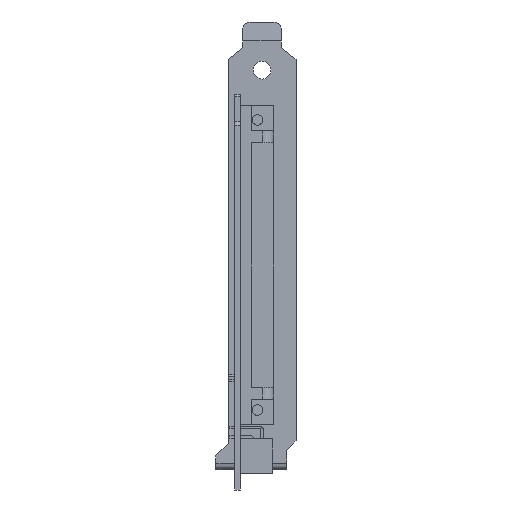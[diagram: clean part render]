
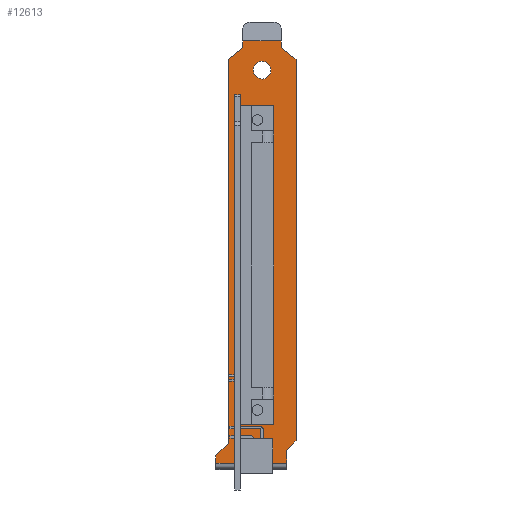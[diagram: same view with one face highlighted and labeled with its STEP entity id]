
A CAD part, front view. The second image highlights one B-rep face of the part: STEP entity #12613.
In plain terms, the highlighted planar face has unit normal (0, -1, 0).
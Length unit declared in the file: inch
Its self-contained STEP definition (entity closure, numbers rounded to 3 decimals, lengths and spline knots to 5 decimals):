
#965=DIRECTION('',(0.,0.,-1.));
#966=VECTOR('',#965,3.38583);
#967=CARTESIAN_POINT('',(0.062,0.33498,0.07787));
#968=LINE('',#967,#966);
#969=DIRECTION('',(1.,0.,0.));
#970=VECTOR('',#969,0.35315);
#971=CARTESIAN_POINT('',(0.062,0.33498,0.07787));
#972=LINE('',#971,#970);
#981=DIRECTION('',(1.,0.,0.));
#982=VECTOR('',#981,0.412);
#983=CARTESIAN_POINT('',(0.0846,0.33498,
0.76396));
#984=LINE('',#983,#982);
#985=DIRECTION('',(0.,0.,-1.));
#986=VECTOR('',#985,0.074);
#987=CARTESIAN_POINT('',(0.4966,0.33498,
0.76396));
#988=LINE('',#987,#986);
#989=DIRECTION('',(-0.788,0.,0.616));
#990=VECTOR('',#989,0.1967);
#991=CARTESIAN_POINT('',(0.6516,0.33498,
0.56886));
#992=LINE('',#991,#990);
#993=DIRECTION('',(0.707,0.,0.707));
#994=VECTOR('',#993,0.14142);
#995=CARTESIAN_POINT('',(0.5516,0.33498,
-3.58304));
#996=LINE('',#995,#994);
#997=DIRECTION('',(0.,0.,1.));
#998=VECTOR('',#997,0.137);
#999=CARTESIAN_POINT('',(0.5516,0.33498,
-3.72004));
#1000=LINE('',#999,#998);
#1001=DIRECTION('',(-1.,0.,0.));
#1002=VECTOR('',#1001,0.75);
#1003=CARTESIAN_POINT('',(0.5516,0.33498,
-3.72004));
#1004=LINE('',#1003,#1002);
#1005=DIRECTION('',(-0.707,0.,-0.707));
#1006=VECTOR('',#1005,0.18102);
#1007=CARTESIAN_POINT('',(-0.0704,0.33498,
-3.51404));
#1008=LINE('',#1007,#1006);
#1009=DIRECTION('',(0.,0.,-1.));
#1010=VECTOR('',#1009,4.0829);
#1011=CARTESIAN_POINT('',(-0.0704,0.33498,
0.56886));
#1012=LINE('',#1011,#1010);
#1013=DIRECTION('',(-0.788,0.,-0.616));
#1014=VECTOR('',#1013,0.1967);
#1015=CARTESIAN_POINT('',(0.0846,0.33498,
0.68996));
#1016=LINE('',#1015,#1014);
#1017=DIRECTION('',(0.,0.,-1.));
#1018=VECTOR('',#1017,0.074);
#1019=CARTESIAN_POINT('',(0.0846,0.33498,
0.76396));
#1020=LINE('',#1019,#1018);
#1021=CARTESIAN_POINT('',(0.2906,0.33498,
0.45296));
#1022=DIRECTION('',(0.,1.,0.));
#1023=DIRECTION('',(0.,0.,1.));
#1024=AXIS2_PLACEMENT_3D('',#1021,#1022,#1023);
#1026=CARTESIAN_POINT('',(0.2906,0.33498,
0.45296));
#1027=DIRECTION('',(0.,1.,0.));
#1028=DIRECTION('',(0.,0.,-1.));
#1029=AXIS2_PLACEMENT_3D('',#1026,#1027,#1028);
#1077=DIRECTION('',(0.,0.,1.));
#1078=VECTOR('',#1077,0.078);
#1079=CARTESIAN_POINT('',(-0.1984,0.33498,
-3.72004));
#1080=LINE('',#1079,#1078);
#1429=DIRECTION('',(0.,0.,1.));
#1430=VECTOR('',#1429,4.0519);
#1431=CARTESIAN_POINT('',(0.6516,0.33498,
-3.48304));
#1432=LINE('',#1431,#1430);
#1674=DIRECTION('',(0.,0.,-1.));
#1675=VECTOR('',#1674,3.38583);
#1676=CARTESIAN_POINT('',(0.41515,0.33498,
0.07787));
#1677=LINE('',#1676,#1675);
#1714=DIRECTION('',(1.,0.,0.));
#1715=VECTOR('',#1714,0.35315);
#1716=CARTESIAN_POINT('',(0.062,0.33498,-3.30795));
#1717=LINE('',#1716,#1715);
#11730=CARTESIAN_POINT('',(-0.1984,0.33498,
-3.72004));
#11732=VERTEX_POINT('',#11730);
#11733=CARTESIAN_POINT('',(0.5516,0.33498,
-3.72004));
#11735=VERTEX_POINT('',#11733);
#11737=CARTESIAN_POINT('',(0.5516,0.33498,
-3.58304));
#11738=VERTEX_POINT('',#11737);
#11739=CARTESIAN_POINT('',(0.6516,0.33498,
-3.48304));
#11740=VERTEX_POINT('',#11739);
#11741=CARTESIAN_POINT('',(0.0846,0.33498,
0.68996));
#11742=CARTESIAN_POINT('',(-0.0704,0.33498,
0.56886));
#11743=VERTEX_POINT('',#11741);
#11744=VERTEX_POINT('',#11742);
#11745=CARTESIAN_POINT('',(-0.0704,0.33498,
-3.51404));
#11746=VERTEX_POINT('',#11745);
#11747=CARTESIAN_POINT('',(-0.1984,0.33498,
-3.64204));
#11748=VERTEX_POINT('',#11747);
#11749=CARTESIAN_POINT('',(0.6516,0.33498,
0.56886));
#11750=CARTESIAN_POINT('',(0.4966,0.33498,
0.68996));
#11751=VERTEX_POINT('',#11749);
#11752=VERTEX_POINT('',#11750);
#11861=CARTESIAN_POINT('',(0.2906,0.33498,
0.54646));
#11862=CARTESIAN_POINT('',(0.2906,0.33498,
0.35946));
#11863=VERTEX_POINT('',#11861);
#11864=VERTEX_POINT('',#11862);
#11865=CARTESIAN_POINT('',(0.0846,0.33498,
0.76396));
#11866=VERTEX_POINT('',#11865);
#11867=CARTESIAN_POINT('',(0.4966,0.33498,
0.76396));
#11868=VERTEX_POINT('',#11867);
#11897=CARTESIAN_POINT('',(0.062,0.33498,0.07787));
#11898=CARTESIAN_POINT('',(0.062,0.33498,-3.30795));
#11899=VERTEX_POINT('',#11897);
#11900=VERTEX_POINT('',#11898);
#11901=CARTESIAN_POINT('',(0.41515,0.33498,
0.07787));
#11902=CARTESIAN_POINT('',(0.41515,0.33498,
-3.30795));
#11903=VERTEX_POINT('',#11901);
#11904=VERTEX_POINT('',#11902);
#12568=CARTESIAN_POINT('',(0.6516,0.33498,
-3.72004));
#12569=DIRECTION('',(0.,1.,0.));
#12570=DIRECTION('',(0.,0.,1.));
#12571=AXIS2_PLACEMENT_3D('',#12568,#12569,#12570);
#12572=PLANE('',#12571);
#12574=ORIENTED_EDGE('',*,*,#12573,.T.);
#12576=ORIENTED_EDGE('',*,*,#12575,.T.);
#12578=ORIENTED_EDGE('',*,*,#12577,.F.);
#12580=ORIENTED_EDGE('',*,*,#12579,.F.);
#12582=ORIENTED_EDGE('',*,*,#12581,.F.);
#12584=ORIENTED_EDGE('',*,*,#12583,.F.);
#12586=ORIENTED_EDGE('',*,*,#12585,.T.);
#12588=ORIENTED_EDGE('',*,*,#12587,.T.);
#12590=ORIENTED_EDGE('',*,*,#12589,.F.);
#12592=ORIENTED_EDGE('',*,*,#12591,.F.);
#12594=ORIENTED_EDGE('',*,*,#12593,.F.);
#12596=ORIENTED_EDGE('',*,*,#12595,.F.);
#12597=EDGE_LOOP('',(#12574,#12576,#12578,#12580,#12582,#12584,#12586,#12588,
#12590,#12592,#12594,#12596));
#12598=FACE_OUTER_BOUND('',#12597,.F.);
#12600=ORIENTED_EDGE('',*,*,#12599,.F.);
#12602=ORIENTED_EDGE('',*,*,#12601,.F.);
#12603=EDGE_LOOP('',(#12600,#12602));
#12604=FACE_BOUND('',#12603,.F.);
#12605=ORIENTED_EDGE('',*,*,#12542,.T.);
#12607=ORIENTED_EDGE('',*,*,#12606,.T.);
#12609=ORIENTED_EDGE('',*,*,#12608,.F.);
#12610=ORIENTED_EDGE('',*,*,#12552,.F.);
#12611=EDGE_LOOP('',(#12605,#12607,#12609,#12610));
#12612=FACE_BOUND('',#12611,.F.);
#12613=ADVANCED_FACE('',(#12598,#12604,#12612),#12572,.F.);
#1025=CIRCLE('',#1024,0.0935);
#1030=CIRCLE('',#1029,0.0935);
#12542=EDGE_CURVE('',#11899,#11900,#968,.T.);
#12552=EDGE_CURVE('',#11899,#11903,#972,.T.);
#12573=EDGE_CURVE('',#11866,#11868,#984,.T.);
#12575=EDGE_CURVE('',#11868,#11752,#988,.T.);
#12577=EDGE_CURVE('',#11751,#11752,#992,.T.);
#12579=EDGE_CURVE('',#11740,#11751,#1432,.T.);
#12581=EDGE_CURVE('',#11738,#11740,#996,.T.);
#12583=EDGE_CURVE('',#11735,#11738,#1000,.T.);
#12585=EDGE_CURVE('',#11735,#11732,#1004,.T.);
#12587=EDGE_CURVE('',#11732,#11748,#1080,.T.);
#12589=EDGE_CURVE('',#11746,#11748,#1008,.T.);
#12591=EDGE_CURVE('',#11744,#11746,#1012,.T.);
#12593=EDGE_CURVE('',#11743,#11744,#1016,.T.);
#12595=EDGE_CURVE('',#11866,#11743,#1020,.T.);
#12599=EDGE_CURVE('',#11863,#11864,#1025,.T.);
#12601=EDGE_CURVE('',#11864,#11863,#1030,.T.);
#12606=EDGE_CURVE('',#11900,#11904,#1717,.T.);
#12608=EDGE_CURVE('',#11903,#11904,#1677,.T.);
